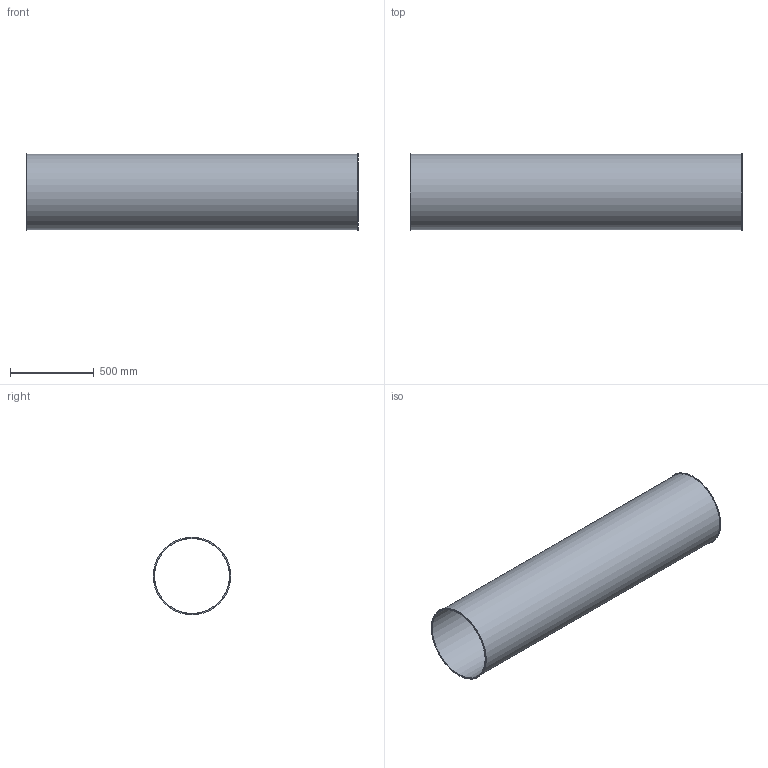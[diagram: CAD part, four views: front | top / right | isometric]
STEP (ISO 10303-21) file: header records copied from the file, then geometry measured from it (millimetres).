
FILE_DESCRIPTION((''),'2;1');
FILE_NAME('U:\Wolfgang\Marcel-3D\fertig\Kapitel 1\4521001.stp','2010-05-31T12:38:39',('TK2'),(''),'Autodesk Inventor 2010','Autodesk Inventor 2010','');
FILE_SCHEMA(('AUTOMOTIVE_DESIGN { 1 0 10303 214 1 1 1 1 }'));
Length unit declared in the file: millimetre
Products named in the file (1): 4521001
Bounding box: 1986 x 464 x 464 mm (x, y, z)
Volume: 5649815.1 mm3; surface area: 5655620.8 mm2
Topology: 1 solids, 1 shells, 8 faces, 12 edges, 8 vertices
Faces by surface type: cylinder 4, plane 4
Full cylindrical faces by diameter (mm): 448 x1, 452 x1, 464 x2
Entity records: 194 total; most frequent: DIRECTION 34, CARTESIAN_POINT 25, AXIS2_PLACEMENT_3D 17, ORIENTED_EDGE 16, EDGE_LOOP 16, VERTEX_POINT 8, CIRCLE 8, EDGE_CURVE 8
